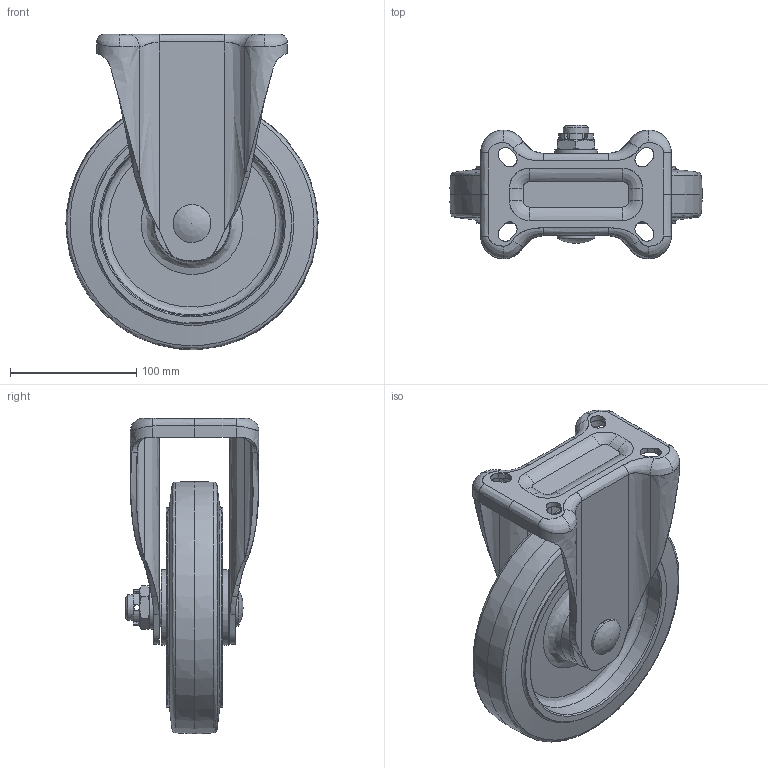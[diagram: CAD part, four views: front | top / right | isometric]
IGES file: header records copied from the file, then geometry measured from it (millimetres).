
Start section: JAMA-IS VERSION  1.0
Global section: file name: E:\tools-models\その他メーカー2\INOAC車輪\6月\TR-200AWK\TR-200AWK\TR-200AWK-ALL.igs; native system: CAM-TOOL; preprocessor: C3out Version 11.1.1.50212 (2015/02/12); author: NONE; organization: NONE; date: 210611.074631; units: millimetre
Bounding box: 199.89 x 106.1 x 249.94 mm (x, y, z)
Surface area: 278263.4 mm2 (no closed solid volume)
Topology: 0 solids, 0 shells, 272 faces, 3050 edges, 3310 vertices
Faces by surface type: bspline 272
